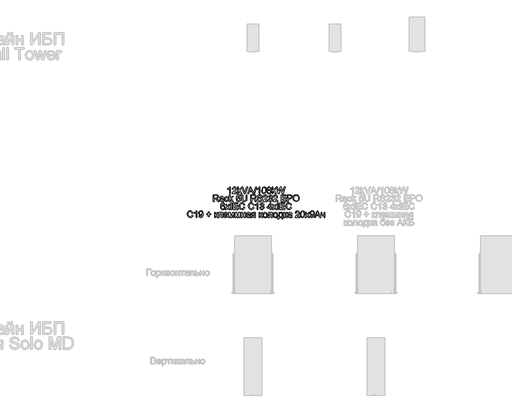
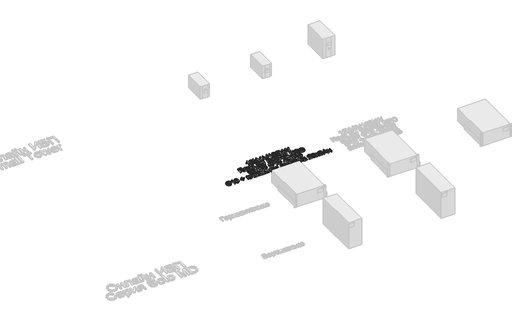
# One storey, part 53 of 74: 1 proxy.
"""IFC4 building model written with IfcOpenShell, lengths in millimetres."""

from ifc_helpers import new_model, si_unit, origin, origin_with_axes, place, context, project, spatial, polyline, outline, extrude, element, save

model = new_model("IFC4")

# Units and contexts
model_context = context("Model", 3, world=origin())
ifc_project = project(units=[si_unit("LENGTHUNIT", "METRE", prefix="MILLI")], contexts=[model_context])

# Site, building, storey
site = spatial("IfcSite", under=ifc_project)
building = spatial("IfcBuilding", under=site)
storey = spatial("IfcBuildingStorey", under=building, Name="Этаж 01", Elevation=0.0)

# Proxy
placement = place(None, origin())
element("IfcBuildingElementProxy", 1, Name="80 мм Arial", ObjectType="80 мм Arial", at=placement, inside=storey, context=model_context, shape_type="SweptSolid", body=[
    extrude(outline(polyline([(1076.7842514, -3326.633326), (1066.7386204, -3326.633326), (1066.7386204, -3264.0050951), (1057.2227394, -3270.783934), (1046.6473583, -3275.8558004), (1046.6473583, -3266.3595399), (1061.3724483, -3256.9613812), (1070.3095283, -3246.2682778), (1076.7842514, -3246.2682778), (1076.7842514, -3326.633326)])), origin_with_axes(), (0.0, 0.0, 1.0), 20.0),
    extrude(outline(polyline([(1152.126484, -3316.5876949), (1152.126484, -3326.633326), (1099.3869212, -3326.633326), (1100.4660417, -3319.7073343), (1106.5679777, -3309.0436615), (1119.1446369, -3297.3989701), (1136.4890467, -3280.6627918), (1140.8251491, -3269.2829755), (1136.7343013, -3260.0712103), (1126.0510082, -3256.3139089), (1114.9164465, -3259.9829186), (1110.6882561, -3270.1266515), (1100.6426251, -3268.8709476), (1103.0780039, -3259.1539579), (1108.3436215, -3252.0562879), (1116.1647927, -3247.7152804), (1126.2668323, -3246.2682778), (1136.4424483, -3247.8771484), (1144.2489042, -3252.7037602), (1149.2153111, -3259.9142473), (1150.8707801, -3268.6747439), (1149.0853262, -3278.200435), (1143.1501633, -3288.0498623), (1128.7586197, -3301.813554), (1117.2022199, -3311.4765878), (1112.6699137, -3316.5876949), (1152.126484, -3316.5876949)])), origin_with_axes(), (0.0, 0.0, 1.0), 20.0),
    extrude(outline(polyline([(1164.6835228, -3326.633326), (1164.6835228, -3246.2682778), (1174.7291538, -3246.2682778), (1174.7291538, -3289.452719), (1197.2533421, -3267.6152437), (1211.1445662, -3267.6152437), (1188.3456927, -3289.7274042), (1212.4002701, -3326.633326), (1200.667287, -3326.633326), (1181.1450158, -3296.712257), (1174.7291538, -3302.9319153), (1174.7291538, -3326.633326), (1164.6835228, -3326.633326)])), origin_with_axes(), (0.0, 0.0, 1.0), 20.0),
    extrude(outline(polyline([(1287.1735119, -3326.633326), (1319.2528219, -3246.2682778), (1327.8073045, -3246.2682778), (1359.8866145, -3326.633326), (1349.2719927, -3326.633326), (1340.0700377, -3301.5192484), (1306.9704683, -3301.5192484), (1297.7881337, -3326.633326), (1287.1735119, -3326.633326)]), holes=[polyline([(1310.6590985, -3291.4736174), (1336.4010279, -3291.4736174), (1329.1611103, -3271.7159017), (1323.5300632, -3256.3139089), (1318.5268681, -3269.9893089), (1310.6590985, -3291.4736174)])]), origin_with_axes(), (0.0, 0.0, 1.0), 20.0),
    extrude(outline(polyline([(1246.1865525, -3326.633326), (1214.2053444, -3246.2682778), (1224.9573089, -3246.2682778), (1246.3631359, -3304.1679988), (1250.6992383, -3317.2155469), (1254.9764797, -3304.1679988), (1276.4411678, -3246.2682778), (1287.1931323, -3246.2682778), (1256.5657299, -3326.633326), (1246.1865525, -3326.633326)])), origin_with_axes(), (0.0, 0.0, 1.0), 20.0),
    extrude(outline(polyline([(1361.8290314, -3326.633326), (1384.4317012, -3246.2682778), (1393.4963136, -3246.2682778), (1370.8936438, -3326.633326), (1361.8290314, -3326.633326)])), origin_with_axes(), (0.0, 0.0, 1.0), 20.0),
    extrude(outline(polyline([(1435.9155602, -3326.633326), (1425.8699292, -3326.633326), (1425.8699292, -3264.0050951), (1416.3540482, -3270.783934), (1405.7786671, -3275.8558004), (1405.7786671, -3266.3595399), (1420.5037571, -3256.9613812), (1429.4408371, -3246.2682778), (1435.9155602, -3246.2682778), (1435.9155602, -3326.633326)])), origin_with_axes(), (0.0, 0.0, 1.0), 20.0),
    extrude(outline(polyline([(1459.7739338, -3287.0982742), (1462.7268, -3263.9756645), (1471.4971067, -3250.643621), (1486.1437152, -3246.2682778), (1497.8766983, -3248.8581671), (1505.9799124, -3256.323719), (1510.688802, -3268.2136651), (1512.5134967, -3287.0982742), (1509.5900611, -3310.122782), (1500.8491849, -3323.4842561), (1486.1437152, -3327.8890298), (1475.7056768, -3325.9760435), (1467.7790461, -3320.2370843), (1461.7752119, -3306.6450709), (1459.7739338, -3287.0982742)]), holes=[polyline([(1469.8195649, -3287.0786538), (1470.9967872, -3302.8804118), (1474.5284544, -3312.0259582), (1486.1437152, -3317.8433988), (1497.7589761, -3312.0063378), (1501.2906433, -3302.8558863), (1502.4678656, -3287.0786538), (1501.329884, -3271.6325151), (1497.9159391, -3262.4158449), (1492.6674893, -3257.8393929), (1486.025993, -3256.3139089), (1474.6854174, -3261.6898911), (1471.036028, -3271.4804572), (1469.8195649, -3287.0786538)])]), origin_with_axes(), (0.0, 0.0, 1.0), 20.0),
    extrude(outline(polyline([(1535.9402221, -3282.3697643), (1526.7873181, -3276.1304857), (1523.8148316, -3266.418401), (1525.4335123, -3258.5653467), (1530.2895547, -3252.0759083), (1537.8384932, -3247.7201854), (1547.5358626, -3246.2682778), (1557.2920931, -3247.7545211), (1564.9391335, -3252.2132509), (1569.8834675, -3258.8056962), (1571.5315789, -3266.6930862), (1568.5983331, -3276.1599162), (1559.7004939, -3282.3697643), (1570.3837871, -3290.2473441), (1574.0429866, -3303.2458413), (1572.2281021, -3312.8500139), (1566.7834486, -3320.7864548), (1558.3761187, -3326.1133861), (1547.6732052, -3327.8890298), (1536.9702917, -3326.1060284), (1528.5629618, -3320.7570242), (1523.1183083, -3312.7445544), (1521.3034238, -3302.971156), (1525.1097762, -3289.6685431), (1535.9402221, -3282.3697643)]), holes=[polyline([(1533.8604626, -3266.7127066), (1537.4215603, -3274.6000966), (1547.7909275, -3277.6608748), (1557.9542807, -3274.6197169), (1561.4859479, -3267.1639752), (1557.8365585, -3259.4433584), (1547.6732052, -3256.3139089), (1537.4804214, -3259.3746871), (1533.8604626, -3266.7127066)]), polyline([(1531.3490548, -3302.6179893), (1533.0265967, -3310.1816431), (1538.9617596, -3315.8421208), (1547.7516867, -3317.8433988), (1559.7201143, -3313.6348288), (1563.9973556, -3302.9319153), (1559.5827717, -3292.0229879), (1547.4181404, -3287.7065058), (1535.5968656, -3291.9641267), (1531.3490548, -3302.6179893)])]), origin_with_axes(), (0.0, 0.0, 1.0), 20.0),
    extrude(outline(polyline([(1585.3443215, -3326.633326), (1585.3443215, -3246.2682778), (1595.3899525, -3246.2682778), (1595.3899525, -3289.452719), (1617.9141408, -3267.6152437), (1631.805365, -3267.6152437), (1609.0064915, -3289.7274042), (1633.0610688, -3326.633326), (1621.3280857, -3326.633326), (1601.8058145, -3296.712257), (1595.3899525, -3302.9319153), (1595.3899525, -3326.633326), (1585.3443215, -3326.633326)])), origin_with_axes(), (0.0, 0.0, 1.0), 20.0),
    extrude(outline(polyline([(1657.4884333, -3326.633326), (1635.5724766, -3246.2682778), (1645.9320336, -3246.2682778), (1658.6460353, -3299.0863222), (1662.5701099, -3315.3908522), (1666.7688698, -3300.969878), (1682.7006127, -3246.2682778), (1697.6317166, -3246.2682778), (1709.2077368, -3285.9210518), (1717.8210805, -3315.3908522), (1721.6274329, -3299.5572111), (1734.4591569, -3246.2682778), (1744.8187139, -3246.2682778), (1722.8831368, -3326.633326), (1712.1507927, -3326.633326), (1692.8835864, -3264.632947), (1690.1955952, -3255.9803625), (1687.1740578, -3266.3987806), (1669.6138239, -3326.633326), (1657.4884333, -3326.633326)])), origin_with_axes(), (0.0, 0.0, 1.0), 20.0),
    extrude(outline(polyline([(866.453852, -3424.2131802), (866.453852, -3343.8481321), (901.0838105, -3343.8481321), (917.1627062, -3346.0161833), (925.9526334, -3353.6877492), (929.2390459, -3365.8425703), (923.7943923, -3380.3224057), (906.9699224, -3387.7977678), (912.679451, -3392.0946295), (920.8219058, -3402.4345661), (934.2226206, -3424.2131802), (922.5484986, -3424.2131802), (912.0908398, -3407.5554835), (904.5369962, -3396.5288338), (899.2296852, -3391.3196248), (894.4521244, -3389.4066384), (888.6248736, -3389.0534717), (876.499483, -3389.0534717), (876.499483, -3424.2131802), (866.453852, -3424.2131802)]), holes=[polyline([(876.499483, -3379.0078407), (898.9844306, -3379.0078407), (910.4525386, -3377.5853636), (916.9665025, -3373.0334371), (919.1934148, -3366.2153574), (914.9456041, -3357.3665692), (901.5154587, -3353.8937631), (876.499483, -3353.8937631), (876.499483, -3379.0078407)])]), origin_with_axes(), (0.0, 0.0, 1.0), 20.0),
    extrude(outline(polyline([(983.2343126, -3416.678957), (973.4927973, -3423.4872264), (962.7310227, -3425.4688841), (948.1432753, -3420.7011335), (943.0517885, -3408.5168818), (944.9745851, -3400.5706307), (950.0268311, -3394.802241), (957.0607349, -3391.5060183), (965.7525602, -3389.9952496), (983.1754514, -3386.5420639), (983.2343126, -3384.3053414), (980.46784, -3376.8888404), (969.3627088, -3373.9850252), (959.1993555, -3375.9176319), (954.3531234, -3382.7749523), (944.3074924, -3381.5192484), (948.653405, -3371.7090619), (957.4040914, -3365.9602926), (970.6576534, -3363.9393941), (982.8320949, -3365.7248481), (989.7090357, -3370.2081033), (992.7894343, -3377.026183), (993.2799436, -3385.8161101), (993.2799436, -3398.3142878), (993.7900733, -3415.7666096), (995.7913513, -3424.2131802), (985.7457203, -3424.2131802), (983.2343126, -3416.678957)]), holes=[polyline([(983.2343126, -3396.5876949), (967.0278844, -3399.6680935), (958.3851101, -3401.2965845), (954.4708456, -3403.9453348), (953.0974195, -3407.8105483), (956.0895264, -3413.2453917), (964.8696434, -3415.4232531), (975.0329966, -3413.0197574), (981.5862012, -3407.2023168), (983.1754514, -3399.432649), (983.2343126, -3396.5876949)])]), origin_with_axes(), (0.0, 0.0, 1.0), 20.0),
    extrude(outline(polyline([(1044.7638025, -3402.8662143), (1054.8094335, -3404.1219182), (1052.0086253, -3413.0565456), (1046.7454602, -3419.8084065), (1030.8137173, -3425.4688841), (1020.1279716, -3423.4945841), (1011.7721452, -3417.571684), (1006.3789952, -3407.9601537), (1004.5812785, -3394.9199632), (1007.6518669, -3378.2328359), (1017.0107848, -3367.510302), (1030.6763747, -3363.9393941), (1045.9508351, -3368.8444874), (1053.5537297, -3382.7749523), (1043.5080987, -3384.0306562), (1038.84826, -3376.5062431), (1030.7548562, -3373.9850252), (1019.1101647, -3378.9489796), (1014.6269095, -3394.645278), (1019.0120629, -3410.4887293), (1030.4801709, -3415.4232531), (1039.9470009, -3412.3428545), (1044.7638025, -3402.8662143)])), origin_with_axes(), (0.0, 0.0, 1.0), 20.0),
    extrude(outline(polyline([(1063.5993607, -3424.2131802), (1063.5993607, -3343.8481321), (1073.6449917, -3343.8481321), (1073.6449917, -3387.0325733), (1096.16918, -3365.195098), (1110.0604041, -3365.195098), (1087.2615306, -3387.3072585), (1111.316108, -3424.2131802), (1099.5831249, -3424.2131802), (1080.0608537, -3394.2921113), (1073.6449917, -3400.5117696), (1073.6449917, -3424.2131802), (1063.5993607, -3424.2131802)])), origin_with_axes(), (0.0, 0.0, 1.0), 20.0),
    extrude(outline(polyline([(1148.9872243, -3402.8662143), (1159.0328553, -3401.6105105), (1164.0949116, -3411.9602573), (1174.5918112, -3415.4232531), (1187.1880907, -3410.6064515), (1191.6811561, -3397.8237784), (1187.4725861, -3385.8945916), (1174.7487742, -3381.5192484), (1165.9294165, -3383.2654616), (1160.2885592, -3387.7977678), (1150.2429282, -3386.5420639), (1159.0328553, -3345.103836), (1197.9596755, -3345.103836), (1197.9596755, -3355.149467), (1167.1556898, -3355.149467), (1162.8588281, -3377.2812478), (1177.5544875, -3371.4736174), (1186.9403835, -3373.2737866), (1194.7321241, -3378.6742943), (1199.9781214, -3386.9050408), (1201.7267871, -3397.1959265), (1200.1522522, -3407.2415575), (1195.4286474, -3415.8352809), (1186.3836554, -3423.0604833), (1174.5525704, -3425.4688841), (1164.6859753, -3423.9213272), (1156.8255634, -3419.2786564), (1151.4373184, -3412.080432), (1148.9872243, -3402.8662143)])), origin_with_axes(), (0.0, 0.0, 1.0), 20.0),
    extrude(outline(polyline([(1267.0233887, -3343.8481321), (1277.0690198, -3343.8481321), (1277.0690198, -3390.2110737), (1274.3417879, -3409.4292291), (1264.511981, -3421.0052492), (1245.8726266, -3425.4688841), (1227.5177675, -3421.5840502), (1217.3347939, -3410.3317663), (1214.2838259, -3390.2110737), (1214.2838259, -3343.8481321), (1224.3294569, -3343.8481321), (1224.3294569, -3389.857907), (1226.3111146, -3405.1716082), (1233.1193841, -3412.7548824), (1244.9308487, -3415.4232531), (1255.1481579, -3414.103783), (1261.9417121, -3410.1453727), (1265.7529696, -3402.4345661), (1267.0233887, -3389.857907), (1267.0233887, -3343.8481321)])), origin_with_axes(), (0.0, 0.0, 1.0), 20.0),
    extrude(outline(polyline([(1326.0414709, -3424.2131802), (1326.0414709, -3343.8481321), (1360.6714294, -3343.8481321), (1376.7503252, -3346.0161833), (1385.5402523, -3353.6877492), (1388.8266648, -3365.8425703), (1383.3820113, -3380.3224057), (1366.5575414, -3387.7977678), (1372.2670699, -3392.0946295), (1380.4095247, -3402.4345661), (1393.8102396, -3424.2131802), (1382.1361176, -3424.2131802), (1371.6784587, -3407.5554835), (1364.1246151, -3396.5288338), (1358.8173042, -3391.3196248), (1354.0397433, -3389.4066384), (1348.2124925, -3389.0534717), (1336.087102, -3389.0534717), (1336.087102, -3424.2131802), (1326.0414709, -3424.2131802)]), holes=[polyline([(1336.087102, -3379.0078407), (1358.5720495, -3379.0078407), (1370.0401576, -3377.5853636), (1376.5541214, -3373.0334371), (1378.7810338, -3366.2153574), (1374.533223, -3357.3665692), (1361.1030776, -3353.8937631), (1336.087102, -3353.8937631), (1336.087102, -3379.0078407)])]), origin_with_axes(), (0.0, 0.0, 1.0), 20.0),
    extrude(outline(polyline([(1402.6394074, -3396.5876949), (1412.6850385, -3396.5876949), (1415.9224, -3406.6431361), (1423.8294104, -3413.000137), (1435.8763194, -3415.4232531), (1446.373219, -3413.5887482), (1453.1520579, -3408.5463123), (1455.3789703, -3401.8067142), (1453.7112386, -3395.538005), (1446.8833487, -3390.9762682), (1432.2563606, -3387.1404853), (1416.5110112, -3382.1863411), (1407.9663387, -3374.710979), (1405.1508152, -3364.7242091), (1408.6334314, -3353.3542029), (1418.8065949, -3345.3294703), (1433.698458, -3342.5924282), (1449.5909602, -3345.4570027), (1460.1859617, -3353.8741428), (1464.1688974, -3366.4508019), (1454.1232664, -3366.4508019), (1448.4333582, -3356.1304857), (1434.0908655, -3352.6380593), (1419.709132, -3356.0912449), (1415.1964462, -3364.4299035), (1418.394567, -3371.3951359), (1434.7971989, -3377.0065626), (1452.5732569, -3382.0489985), (1462.2951518, -3390.1914533), (1465.4246013, -3401.5516493), (1461.8242628, -3413.5691278), (1451.4647058, -3422.3394346), (1436.2687269, -3425.4688841), (1418.3258957, -3422.0941799), (1406.9755099, -3411.9308267), (1402.6394074, -3396.5876949)])), origin_with_axes(), (0.0, 0.0, 1.0), 20.0),
    extrude(outline(polyline([(1528.2097951, -3414.1675492), (1528.2097951, -3424.2131802), (1475.4702323, -3424.2131802), (1476.5493528, -3417.2871885), (1482.6512888, -3406.6235158), (1495.227948, -3394.9788244), (1512.5723578, -3378.2426461), (1516.9084602, -3366.8628297), (1512.8176124, -3357.6510646), (1502.1343193, -3353.8937631), (1490.9997576, -3357.5627729), (1486.7715672, -3367.7065058), (1476.7259362, -3366.4508019), (1479.161315, -3356.7338121), (1484.4269326, -3349.6361422), (1492.2481038, -3345.2951346), (1502.3501434, -3343.8481321), (1512.5257594, -3345.4570027), (1520.3322153, -3350.2836145), (1525.2986223, -3357.4941016), (1526.9540912, -3366.2545982), (1525.1686373, -3375.7802893), (1519.2334744, -3385.6297166), (1504.8419308, -3399.3934083), (1493.285531, -3409.056442), (1488.7532249, -3414.1675492), (1528.2097951, -3414.1675492)])), origin_with_axes(), (0.0, 0.0, 1.0), 20.0),
    extrude(outline(polyline([(1538.2554261, -3402.8662143), (1548.3010572, -3401.6105105), (1553.8438125, -3412.1858915), (1564.2131797, -3415.4232531), (1576.4170518, -3410.9694284), (1580.949358, -3399.9427787), (1576.4562925, -3389.5537912), (1565.0372354, -3385.443323), (1557.9935215, -3386.5420639), (1559.1118827, -3376.4964329), (1560.7207533, -3376.6141552), (1572.1201901, -3373.7299603), (1577.1822463, -3364.8615517), (1573.5132366, -3357.0035923), (1564.0562167, -3353.8937631), (1554.4814747, -3357.0330228), (1549.556761, -3366.4508019), (1539.51113, -3365.195098), (1547.7320663, -3349.4399384), (1563.70305, -3343.8481321), (1575.8186304, -3346.6047945), (1584.2946316, -3354.1390178), (1587.2278773, -3364.2729405), (1584.4417844, -3373.5337566), (1576.2012277, -3380.1850631), (1587.1493958, -3387.0521936), (1590.994989, -3400.1193621), (1589.0721924, -3409.9099283), (1583.3038027, -3418.0916238), (1574.5972622, -3423.624569), (1563.860013, -3425.4688841), (1554.1479283, -3423.8943492), (1546.240918, -3419.1707444), (1540.7423084, -3411.945542), (1538.2554261, -3402.8662143)])), origin_with_axes(), (0.0, 0.0, 1.0), 20.0),
    extrude(outline(polyline([(1651.2687751, -3414.1675492), (1651.2687751, -3424.2131802), (1598.5292122, -3424.2131802), (1599.6083327, -3417.2871885), (1605.7102688, -3406.6235158), (1618.2869279, -3394.9788244), (1635.6313377, -3378.2426461), (1639.9674402, -3366.8628297), (1635.8765924, -3357.6510646), (1625.1932992, -3353.8937631), (1614.0587375, -3357.5627729), (1609.8305471, -3367.7065058), (1599.7849161, -3366.4508019), (1602.2202949, -3356.7338121), (1607.4859125, -3349.6361422), (1615.3070838, -3345.2951346), (1625.4091233, -3343.8481321), (1635.5847393, -3345.4570027), (1643.3911953, -3350.2836145), (1648.3576022, -3357.4941016), (1650.0130712, -3366.2545982), (1648.2276172, -3375.7802893), (1642.2924544, -3385.6297166), (1627.9009107, -3399.3934083), (1616.344511, -3409.056442), (1611.8122048, -3414.1675492), (1651.2687751, -3414.1675492)])), origin_with_axes(), (0.0, 0.0, 1.0), 20.0),
    extrude(outline(polyline([(1696.4741146, -3424.2131802), (1696.4741146, -3343.8481321), (1754.236493, -3343.8481321), (1754.236493, -3353.8937631), (1706.5197456, -3353.8937631), (1706.5197456, -3377.7521368), (1751.7250852, -3377.7521368), (1751.7250852, -3387.7977678), (1706.5197456, -3387.7977678), (1706.5197456, -3414.1675492), (1755.4921968, -3414.1675492), (1755.4921968, -3424.2131802), (1696.4741146, -3424.2131802)])), origin_with_axes(), (0.0, 0.0, 1.0), 20.0),
    extrude(outline(polyline([(1770.5606434, -3424.2131802), (1770.5606434, -3343.8481321), (1800.3443697, -3343.8481321), (1812.352038, -3344.6133267), (1822.1131736, -3348.3706281), (1828.4407439, -3356.1402958), (1830.8344295, -3367.0982742), (1829.2182012, -3376.5700093), (1824.3695165, -3384.4623044), (1815.3024516, -3389.7892357), (1801.0310827, -3391.5648794), (1780.6062744, -3391.5648794), (1780.6062744, -3424.2131802), (1770.5606434, -3424.2131802)]), holes=[polyline([(1780.6062744, -3381.5192484), (1801.6196939, -3381.5192484), (1816.4134552, -3377.8306183), (1820.7887984, -3367.4514409), (1818.2087194, -3359.1324027), (1811.4298805, -3354.5804762), (1801.3842495, -3353.8937631), (1780.6062744, -3353.8937631), (1780.6062744, -3381.5192484)])]), origin_with_axes(), (0.0, 0.0, 1.0), 20.0),
    extrude(outline(polyline([(1840.8800605, -3385.0901563), (1843.5582414, -3367.3190034), (1851.5927842, -3353.8741428), (1863.8604224, -3345.4128569), (1879.2378898, -3342.5924282), (1899.23105, -3347.889929), (1912.8083482, -3362.6640699), (1917.477997, -3384.1679988), (1912.5630935, -3405.9662333), (1898.6326286, -3420.5245501), (1879.1790287, -3425.4688841), (1858.9700444, -3420.0046102), (1845.4712278, -3405.0931267), (1840.8800605, -3385.0901563)]), holes=[polyline([(1850.9256915, -3385.1882582), (1852.9343272, -3397.7600122), (1858.9602343, -3407.3396594), (1868.017489, -3413.4023547), (1879.1201676, -3415.4232531), (1890.3847143, -3413.3827343), (1899.4566843, -3407.2611779), (1905.4384455, -3397.3872251), (1907.4323659, -3384.0895173), (1904.018421, -3367.510302), (1894.0414613, -3356.5327033), (1879.2967509, -3352.6380593), (1868.4908305, -3354.5142574), (1859.3035908, -3360.142852), (1853.0201663, -3370.1565999), (1850.9256915, -3385.1882582)])]), origin_with_axes(), (0.0, 0.0, 1.0), 20.0),
    extrude(outline(polyline([(1009.604094, -3462.7749523), (999.558463, -3464.0306562), (995.7521106, -3455.6527569), (985.6868592, -3451.4736174), (976.6222468, -3453.9065437), (969.7649264, -3463.0398273), (966.9101622, -3480.9434178), (975.7687606, -3472.9284954), (986.7463593, -3470.3091756), (996.0267958, -3472.0995346), (1003.8160839, -3477.4706117), (1009.0988694, -3485.6768328), (1010.8597979, -3495.9726235), (1007.5439548, -3509.8344171), (998.4204813, -3519.6446037), (985.255211, -3523.0487384), (973.8582268, -3520.7923955), (964.7813517, -3514.0233668), (958.8437363, -3502.0745596), (956.8645311, -3484.2788812), (959.0620129, -3464.2710057), (965.6544583, -3450.5907006), (974.6553044, -3443.7186649), (986.3147111, -3441.4279864), (995.1291637, -3442.8455583), (1002.187593, -3447.0982742), (1009.604094, -3462.7749523)]), holes=[polyline([(966.9101622, -3495.8156606), (969.2351764, -3504.517296), (975.4155939, -3510.8350561), (984.4703961, -3513.0031074), (996.3112912, -3508.5100419), (1000.8141668, -3496.3061699), (996.3701523, -3484.6222377), (984.0583682, -3480.3548066), (971.9035471, -3484.6222377), (966.9101622, -3495.8156606)])]), origin_with_axes(), (0.0, 0.0, 1.0), 20.0),
    extrude(outline(polyline([(1015.8826134, -3521.7930345), (1037.3473015, -3492.1270304), (1017.1383172, -3462.7749523), (1029.2244671, -3462.7749523), (1038.9757925, -3476.9016209), (1043.527719, -3483.5725478), (1047.471414, -3478.118084), (1058.5765452, -3462.7749523), (1070.662695, -3462.7749523), (1049.4334513, -3492.1270304), (1069.8778801, -3521.7930345), (1057.7917303, -3521.7930345), (1045.4897563, -3503.9581154), (1043.2334134, -3500.7011335), (1027.9687632, -3521.7930345), (1015.8826134, -3521.7930345)])), origin_with_axes(), (0.0, 0.0, 1.0), 20.0),
    extrude(outline(polyline([(1081.179215, -3521.7930345), (1081.179215, -3441.4279864), (1091.224846, -3441.4279864), (1091.224846, -3521.7930345), (1081.179215, -3521.7930345)])), origin_with_axes(), (0.0, 0.0, 1.0), 20.0),
    extrude(outline(polyline([(1111.316108, -3521.7930345), (1111.316108, -3441.4279864), (1169.0784863, -3441.4279864), (1169.0784863, -3451.4736174), (1121.361739, -3451.4736174), (1121.361739, -3475.3319911), (1166.5670786, -3475.3319911), (1166.5670786, -3485.3776221), (1121.361739, -3485.3776221), (1121.361739, -3511.7474035), (1170.3341902, -3511.7474035), (1170.3341902, -3521.7930345), (1111.316108, -3521.7930345)])), origin_with_axes(), (0.0, 0.0, 1.0), 20.0),
    extrude(outline(polyline([(1241.9093112, -3493.2257713), (1251.9549422, -3495.8156606), (1247.3196291, -3507.5216656), (1240.0453758, -3516.0736958), (1230.4902541, -3521.3049777), (1219.0123358, -3523.0487384), (1198.1068283, -3517.770858), (1185.8440951, -3502.4865874), (1181.6355251, -3481.0022789), (1186.3934656, -3459.1648037), (1199.9217128, -3445.0087045), (1219.2281599, -3440.1722825), (1230.2425469, -3441.7370073), (1239.3488525, -3446.4311815), (1246.2625815, -3453.9654048), (1250.6992383, -3464.0502765), (1240.6536073, -3466.4439621), (1232.4130506, -3454.0929372), (1218.8357525, -3450.2179135), (1203.1198336, -3454.5147752), (1194.2416148, -3466.0515546), (1191.6811561, -3480.9826585), (1194.7125038, -3498.2878276), (1204.1499032, -3509.3439078), (1218.0116968, -3513.0031074), (1233.3842591, -3508.0195326), (1241.9093112, -3493.2257713)])), origin_with_axes(), (0.0, 0.0, 1.0), 20.0),
    extrude(outline(polyline([(1353.6669562, -3493.2257713), (1363.7125873, -3495.8156606), (1359.0772741, -3507.5216656), (1351.8030208, -3516.0736958), (1342.2478991, -3521.3049777), (1330.7699809, -3523.0487384), (1309.8644733, -3517.770858), (1297.6017402, -3502.4865874), (1293.3931702, -3481.0022789), (1298.1511106, -3459.1648037), (1311.6793579, -3445.0087045), (1330.985805, -3440.1722825), (1342.0001919, -3441.7370073), (1351.1064976, -3446.4311815), (1358.0202265, -3453.9654048), (1362.4568834, -3464.0502765), (1352.4112524, -3466.4439621), (1344.1706957, -3454.0929372), (1330.5933975, -3450.2179135), (1314.8774787, -3454.5147752), (1305.9992599, -3466.0515546), (1303.4388012, -3480.9826585), (1306.4701488, -3498.2878276), (1315.9075483, -3509.3439078), (1329.7693418, -3513.0031074), (1345.1419041, -3508.0195326), (1353.6669562, -3493.2257713)])), origin_with_axes(), (0.0, 0.0, 1.0), 20.0),
    extrude(outline(polyline([(1411.4293346, -3521.7930345), (1401.3837036, -3521.7930345), (1401.3837036, -3459.1648037), (1391.8678226, -3465.9436426), (1381.2924415, -3471.015509), (1381.2924415, -3461.5192484), (1396.0175315, -3452.1210897), (1404.9546115, -3441.4279864), (1411.4293346, -3441.4279864), (1411.4293346, -3521.7930345)])), origin_with_axes(), (0.0, 0.0, 1.0), 20.0),
    extrude(outline(polyline([(1435.2877082, -3500.4460686), (1445.3333393, -3499.1903647), (1450.8760946, -3509.7657458), (1461.2454618, -3513.0031074), (1473.4493339, -3508.5492827), (1477.98164, -3497.522633), (1473.4885746, -3487.1336455), (1462.0695175, -3483.0231773), (1455.0258036, -3484.1219182), (1456.1441648, -3474.0762872), (1457.7530354, -3474.1940094), (1469.1524722, -3471.3098146), (1474.2145284, -3462.441406), (1470.5455187, -3454.5834465), (1461.0884988, -3451.4736174), (1451.5137568, -3454.6128771), (1446.5890431, -3464.0306562), (1436.5434121, -3462.7749523), (1444.7643484, -3447.0197927), (1460.7353321, -3441.4279864), (1472.8509125, -3444.1846488), (1481.3269137, -3451.7188721), (1484.2601594, -3461.8527948), (1481.4740665, -3471.1136109), (1473.2335098, -3477.7649173), (1484.1816779, -3484.6320479), (1488.0272711, -3497.6992164), (1486.1044745, -3507.4897825), (1480.3360848, -3515.6714781), (1471.6295443, -3521.2044233), (1460.8922951, -3523.0487384), (1451.1802104, -3521.4742035), (1443.2732001, -3516.7505986), (1437.7745905, -3509.5253962), (1435.2877082, -3500.4460686)])), origin_with_axes(), (0.0, 0.0, 1.0), 20.0),
    extrude(outline(polyline([(1560.8580959, -3521.7930345), (1560.8580959, -3502.9574764), (1524.4426835, -3502.9574764), (1524.4426835, -3492.9118453), (1563.3695037, -3442.6836903), (1570.9037269, -3442.6836903), (1570.9037269, -3492.9118453), (1580.949358, -3492.9118453), (1580.949358, -3502.9574764), (1570.9037269, -3502.9574764), (1570.9037269, -3521.7930345), (1560.8580959, -3521.7930345)]), holes=[polyline([(1560.8580959, -3492.9118453), (1560.8580959, -3461.8724151), (1536.8035185, -3492.9118453), (1560.8580959, -3492.9118453)])]), origin_with_axes(), (0.0, 0.0, 1.0), 20.0),
    extrude(outline(polyline([(1585.9721735, -3521.7930345), (1607.4368616, -3492.1270304), (1587.2278773, -3462.7749523), (1599.3140272, -3462.7749523), (1609.0653526, -3476.9016209), (1613.6172791, -3483.5725478), (1617.5609741, -3478.118084), (1628.6661053, -3462.7749523), (1640.7522551, -3462.7749523), (1619.5230114, -3492.1270304), (1639.9674402, -3521.7930345), (1627.8812904, -3521.7930345), (1615.5793164, -3503.9581154), (1613.3229735, -3500.7011335), (1598.0583233, -3521.7930345), (1585.9721735, -3521.7930345)])), origin_with_axes(), (0.0, 0.0, 1.0), 20.0),
    extrude(outline(polyline([(1651.2687751, -3521.7930345), (1651.2687751, -3441.4279864), (1661.3144061, -3441.4279864), (1661.3144061, -3521.7930345), (1651.2687751, -3521.7930345)])), origin_with_axes(), (0.0, 0.0, 1.0), 20.0),
    extrude(outline(polyline([(1681.4056681, -3521.7930345), (1681.4056681, -3441.4279864), (1739.1680464, -3441.4279864), (1739.1680464, -3451.4736174), (1691.4512991, -3451.4736174), (1691.4512991, -3475.3319911), (1736.6566387, -3475.3319911), (1736.6566387, -3485.3776221), (1691.4512991, -3485.3776221), (1691.4512991, -3511.7474035), (1740.4237503, -3511.7474035), (1740.4237503, -3521.7930345), (1681.4056681, -3521.7930345)])), origin_with_axes(), (0.0, 0.0, 1.0), 20.0),
    extrude(outline(polyline([(1811.9988713, -3493.2257713), (1822.0445023, -3495.8156606), (1817.4091892, -3507.5216656), (1810.1349359, -3516.0736958), (1800.5798142, -3521.3049777), (1789.1018959, -3523.0487384), (1768.1963884, -3517.770858), (1755.9336552, -3502.4865874), (1751.7250852, -3481.0022789), (1756.4830257, -3459.1648037), (1770.0112729, -3445.0087045), (1789.31772, -3440.1722825), (1800.332107, -3441.7370073), (1809.4384126, -3446.4311815), (1816.3521416, -3453.9654048), (1820.7887984, -3464.0502765), (1810.7431674, -3466.4439621), (1802.5026107, -3454.0929372), (1788.9253126, -3450.2179135), (1773.2093937, -3454.5147752), (1764.3311749, -3466.0515546), (1761.7707162, -3480.9826585), (1764.8020639, -3498.2878276), (1774.2394633, -3509.3439078), (1788.1012569, -3513.0031074), (1803.4738192, -3508.0195326), (1811.9988713, -3493.2257713)])), origin_with_axes(), (0.0, 0.0, 1.0), 20.0),
    extrude(outline(polyline([(609.0345573, -3590.8056256), (619.0801883, -3593.3955148), (614.4448751, -3605.1015199), (607.1706218, -3613.65355), (597.6155001, -3618.884832), (586.1375819, -3620.6285927), (565.2320744, -3615.3507123), (552.9693412, -3600.0664417), (548.7607712, -3578.5821332), (553.5187116, -3556.7446579), (567.0469589, -3542.5885588), (586.353406, -3537.7521368), (597.3677929, -3539.3168615), (606.4740986, -3544.0110358), (613.3878275, -3551.5452591), (617.8244844, -3561.6301308), (607.7788534, -3564.0238163), (599.5382967, -3551.6727915), (585.9609985, -3547.7977678), (570.2450797, -3552.0946295), (561.3668609, -3563.6314089), (558.8064022, -3578.5625128), (561.8377498, -3595.8676818), (571.2751493, -3606.9237621), (585.1369428, -3610.5829617), (600.5095052, -3605.5993869), (609.0345573, -3590.8056256)])), origin_with_axes(), (0.0, 0.0, 1.0), 20.0),
    extrude(outline(polyline([(666.7969356, -3619.3728888), (656.7513046, -3619.3728888), (656.7513046, -3556.7446579), (647.2354236, -3563.5234968), (636.6600425, -3568.5953633), (636.6600425, -3559.0991027), (651.3851325, -3549.700944), (660.3222125, -3539.0078407), (666.7969356, -3539.0078407), (666.7969356, -3619.3728888)])), origin_with_axes(), (0.0, 0.0, 1.0), 20.0),
    extrude(outline(polyline([(691.9110131, -3599.2816268), (701.9566441, -3598.0259229), (706.46933, -3607.6104751), (715.0238126, -3610.5829617), (723.1564573, -3608.6699753), (728.6697821, -3603.5588681), (731.9561946, -3594.8278021), (733.4081022, -3583.1733005), (733.3492411, -3581.2112632), (725.3146983, -3588.8239679), (714.2978588, -3591.7474035), (705.1375971, -3589.9619495), (697.5126296, -3584.6055877), (692.3696393, -3576.3306954), (690.6553093, -3565.7896499), (692.4530259, -3554.9003429), (697.846176, -3546.3654806), (705.9469375, -3540.8472506), (715.8674887, -3539.0078407), (730.1805508, -3543.2066005), (740.0299781, -3555.1750281), (743.3948721, -3577.6599756), (740.0397883, -3602.0579095), (730.0628286, -3615.8804624), (714.5529237, -3620.6285927), (705.9641053, -3619.2281885), (699.11169, -3615.0269762), (691.9110131, -3599.2816268)]), holes=[polyline([(733.3492411, -3565.5542054), (729.0131386, -3553.5072964), (717.4959796, -3549.0534717), (705.4098298, -3553.8506529), (700.7009403, -3566.2801592), (705.154765, -3577.414721), (717.2212944, -3581.7017725), (728.8071247, -3577.414721), (733.3492411, -3565.5542054)])]), origin_with_axes(), (0.0, 0.0, 1.0), 20.0),
    extrude(outline(polyline([(806.1800659, -3606.81585), (806.1800659, -3585.4688841), (784.8331, -3585.4688841), (784.8331, -3575.4232531), (806.1800659, -3575.4232531), (806.1800659, -3554.0762872), (816.2256969, -3554.0762872), (816.2256969, -3575.4232531), (837.5726628, -3575.4232531), (837.5726628, -3585.4688841), (816.2256969, -3585.4688841), (816.2256969, -3606.81585), (806.1800659, -3606.81585)])), origin_with_axes(), (0.0, 0.0, 1.0), 20.0),
    extrude(outline(polyline([(936.7732691, -3560.3548066), (981.9786087, -3560.3548066), (981.9786087, -3619.3140277), (971.9329777, -3619.3140277), (971.9329777, -3570.4004376), (946.8189001, -3570.4004376), (946.8189001, -3598.555673), (946.1419973, -3611.5443599), (942.4239366, -3617.0282542), (933.6340094, -3619.3728888), (925.4719342, -3618.8627591), (925.4719342, -3609.3272578), (929.9649997, -3609.3272578), (934.507116, -3608.709216), (936.3220005, -3606.7471787), (936.7732691, -3597.9866821), (936.7732691, -3560.3548066)])), origin_with_axes(), (0.0, 0.0, 1.0), 20.0),
    extrude(outline(polyline([(882.7780024, -3560.3548066), (892.8236334, -3560.3548066), (892.8236334, -3585.4688841), (899.5534214, -3583.6638098), (905.0667462, -3573.1472898), (909.6481033, -3564.0728673), (913.6899002, -3561.1200011), (921.0377299, -3560.3548066), (922.9605265, -3560.3548066), (922.9605265, -3570.4592987), (920.252915, -3570.4004376), (915.3478217, -3571.4599377), (911.8946361, -3578.0720035), (907.843029, -3585.2236295), (902.162931, -3588.725866), (908.5003115, -3592.6352254), (914.7199698, -3600.870877), (925.4719342, -3619.3728888), (914.0528771, -3619.3728888), (903.5167368, -3601.2632844), (898.219236, -3593.6015288), (892.8236334, -3591.7474035), (892.8236334, -3619.3728888), (882.7780024, -3619.3728888), (882.7780024, -3560.3548066)])), origin_with_axes(), (0.0, 0.0, 1.0), 20.0),
    extrude(outline(polyline([(1038.3675609, -3601.7930345), (1048.2169882, -3603.0487384), (1039.005223, -3616.017805), (1021.8472068, -3620.6285927), (1010.0602677, -3618.6395773), (1000.9907502, -3612.6725314), (995.2076452, -3603.1149571), (993.2799436, -3590.354357), (995.2272656, -3577.1645612), (1001.0692317, -3567.3004186), (1010.0161218, -3561.1494317), (1021.278216, -3559.0991027), (1032.1895959, -3561.1445266), (1040.9083992, -3567.2807983), (1046.6252854, -3577.1253205), (1048.5309142, -3590.2954959), (1048.472053, -3593.0031074), (1003.3255746, -3593.0031074), (1009.1037745, -3606.0506555), (1022.0434105, -3610.5829617), (1031.8928378, -3608.4835817), (1038.3675609, -3601.7930345)]), holes=[polyline([(1003.3255746, -3582.9574764), (1038.4852831, -3582.9574764), (1034.4631067, -3573.8536233), (1021.2389752, -3569.1447337), (1008.86833, -3572.9020352), (1003.3255746, -3582.9574764)])]), origin_with_axes(), (0.0, 0.0, 1.0), 20.0),
    extrude(outline(polyline([(1058.5765452, -3560.3548066), (1075.8620939, -3560.3548066), (1089.1843272, -3607.6006649), (1103.5464403, -3560.3548066), (1120.1060351, -3560.3548066), (1120.1060351, -3619.3728888), (1110.0604041, -3619.3728888), (1110.0604041, -3571.8523452), (1095.6198095, -3619.3728888), (1082.4349188, -3619.3728888), (1068.6221762, -3569.5763819), (1068.6221762, -3619.3728888), (1058.5765452, -3619.3728888), (1058.5765452, -3560.3548066)])), origin_with_axes(), (0.0, 0.0, 1.0), 20.0),
    extrude(outline(polyline([(1135.1744817, -3560.3548066), (1152.4600303, -3560.3548066), (1165.7822637, -3607.6006649), (1180.1443768, -3560.3548066), (1196.7039716, -3560.3548066), (1196.7039716, -3619.3728888), (1186.6583406, -3619.3728888), (1186.6583406, -3571.8523452), (1172.217746, -3619.3728888), (1159.0328553, -3619.3728888), (1145.2201127, -3569.5763819), (1145.2201127, -3619.3728888), (1135.1744817, -3619.3728888), (1135.1744817, -3560.3548066)])), origin_with_axes(), (0.0, 0.0, 1.0), 20.0),
    extrude(outline(polyline([(1211.7724182, -3560.3548066), (1221.8180492, -3560.3548066), (1221.8180492, -3582.9574764), (1248.1878306, -3582.9574764), (1248.1878306, -3560.3548066), (1258.2334616, -3560.3548066), (1258.2334616, -3619.3728888), (1248.1878306, -3619.3728888), (1248.1878306, -3593.0031074), (1221.8180492, -3593.0031074), (1221.8180492, -3619.3728888), (1211.7724182, -3619.3728888), (1211.7724182, -3560.3548066)])), origin_with_axes(), (0.0, 0.0, 1.0), 20.0),
    extrude(outline(polyline([(1310.9730244, -3611.8386655), (1301.2315092, -3618.646935), (1290.4697346, -3620.6285927), (1275.8819872, -3615.860842), (1270.7905004, -3603.6765903), (1272.7132969, -3595.7303392), (1277.765543, -3589.9619495), (1284.7994467, -3586.6657269), (1293.491272, -3585.1549581), (1310.9141633, -3581.7017725), (1310.9730244, -3579.46505), (1308.2065518, -3572.0485489), (1297.1014207, -3569.1447337), (1286.9380674, -3571.0773405), (1282.0918353, -3577.9346609), (1272.0462042, -3576.678957), (1276.3921169, -3566.8687704), (1285.1428033, -3561.1200011), (1298.3963653, -3559.0991027), (1310.5708068, -3560.8845566), (1317.4477475, -3565.3678119), (1320.5281461, -3572.1858915), (1321.0186554, -3580.9758187), (1321.0186554, -3593.4739963), (1321.5287851, -3610.9263182), (1323.5300632, -3619.3728888), (1313.4844322, -3619.3728888), (1310.9730244, -3611.8386655)]), holes=[polyline([(1310.9730244, -3591.7474035), (1294.7665963, -3594.8278021), (1286.1238219, -3596.456293), (1282.2095575, -3599.1050434), (1280.8361314, -3602.9702569), (1283.8282383, -3608.4051002), (1292.6083552, -3610.5829617), (1302.7717085, -3608.1794659), (1309.3249131, -3602.3620253), (1310.9141633, -3594.5923576), (1310.9730244, -3591.7474035)])]), origin_with_axes(), (0.0, 0.0, 1.0), 20.0),
    extrude(outline(polyline([(1380.0367377, -3560.3548066), (1380.0367377, -3619.3728888), (1369.9911066, -3619.3728888), (1369.9911066, -3596.770219), (1364.5170226, -3596.770219), (1357.0612808, -3598.0455433), (1350.0568076, -3606.6196463), (1342.0516954, -3619.3728888), (1330.4364345, -3619.3728888), (1340.5213063, -3603.2449421), (1349.0757889, -3594.8866632), (1337.3820466, -3588.7847272), (1333.5756942, -3577.4049108), (1338.7750931, -3565.0833165), (1353.8239192, -3560.3548066), (1380.0367377, -3560.3548066)]), holes=[polyline([(1369.9911066, -3570.4004376), (1356.7473548, -3570.4004376), (1346.0248209, -3572.7254518), (1343.6213252, -3578.1701053), (1347.1628026, -3584.6546386), (1359.7100311, -3586.724588), (1369.9911066, -3586.724588), (1369.9911066, -3570.4004376)])]), origin_with_axes(), (0.0, 0.0, 1.0), 20.0),
    extrude(outline(polyline([(1426.4977811, -3560.3548066), (1436.5434121, -3560.3548066), (1436.5434121, -3585.4688841), (1443.2732001, -3583.6638098), (1448.7865249, -3573.1472898), (1453.367882, -3564.0728673), (1457.4096789, -3561.1200011), (1464.7575086, -3560.3548066), (1466.6803052, -3560.3548066), (1466.6803052, -3570.4592987), (1463.9726937, -3570.4004376), (1459.0676004, -3571.4599377), (1455.6144147, -3578.0720035), (1451.5628077, -3585.2236295), (1445.8827097, -3588.725866), (1452.2200902, -3592.6352254), (1458.4397485, -3600.870877), (1469.1917129, -3619.3728888), (1457.7726558, -3619.3728888), (1447.2365154, -3601.2632844), (1441.9390147, -3593.6015288), (1436.5434121, -3591.7474035), (1436.5434121, -3619.3728888), (1426.4977811, -3619.3728888), (1426.4977811, -3560.3548066)])), origin_with_axes(), (0.0, 0.0, 1.0), 20.0),
    extrude(outline(polyline([(1472.9588245, -3589.8638477), (1475.1317809, -3575.6341721), (1481.6506498, -3565.6326869), (1489.704813, -3560.7324988), (1499.3482263, -3559.0991027), (1509.9015345, -3561.088118), (1518.3309373, -3567.055164), (1523.8565248, -3576.5293516), (1525.6983874, -3589.039792), (1522.4414054, -3606.9139519), (1512.9549551, -3617.0282542), (1499.3482263, -3620.6285927), (1488.6673857, -3618.646935), (1480.2477931, -3612.7019619), (1474.7810667, -3603.029118), (1472.9588245, -3589.8638477)]), holes=[polyline([(1483.0044556, -3589.8442273), (1487.654484, -3605.4129933), (1499.3482263, -3610.5829617), (1511.0027279, -3605.3835628), (1515.6527564, -3589.5303013), (1510.9732974, -3574.314702), (1499.3482263, -3569.1447337), (1487.654484, -3574.2950816), (1483.0044556, -3589.8442273)])]), origin_with_axes(), (0.0, 0.0, 1.0), 20.0),
    extrude(outline(polyline([(1542.0225378, -3560.3548066), (1587.2278773, -3560.3548066), (1587.2278773, -3619.3140277), (1577.1822463, -3619.3140277), (1577.1822463, -3570.4004376), (1552.0681688, -3570.4004376), (1552.0681688, -3598.555673), (1551.3912659, -3611.5443599), (1547.6732052, -3617.0282542), (1538.8832781, -3619.3728888), (1530.7212029, -3618.8627591), (1530.7212029, -3609.3272578), (1535.2142683, -3609.3272578), (1539.7563847, -3608.709216), (1541.5712692, -3606.7471787), (1542.0225378, -3597.9866821), (1542.0225378, -3560.3548066)])), origin_with_axes(), (0.0, 0.0, 1.0), 20.0),
    extrude(outline(polyline([(1599.7849161, -3589.8638477), (1601.9578724, -3575.6341721), (1608.4767414, -3565.6326869), (1616.5309045, -3560.7324988), (1626.1743179, -3559.0991027), (1636.7276261, -3561.088118), (1645.1570288, -3567.055164), (1650.6826164, -3576.5293516), (1652.5244789, -3589.039792), (1649.267497, -3606.9139519), (1639.7810466, -3617.0282542), (1626.1743179, -3620.6285927), (1615.4934773, -3618.646935), (1607.0738847, -3612.7019619), (1601.6071583, -3603.029118), (1599.7849161, -3589.8638477)]), holes=[polyline([(1609.8305471, -3589.8442273), (1614.4805755, -3605.4129933), (1626.1743179, -3610.5829617), (1637.8288195, -3605.3835628), (1642.4788479, -3589.5303013), (1637.7993889, -3574.314702), (1626.1743179, -3569.1447337), (1614.4805755, -3574.2950816), (1609.8305471, -3589.8442273)])]), origin_with_axes(), (0.0, 0.0, 1.0), 20.0),
    extrude(outline(polyline([(1672.615741, -3560.3548066), (1710.2868573, -3560.3548066), (1710.2868573, -3609.3272578), (1717.8210805, -3609.3272578), (1717.8210805, -3635.6970392), (1707.7754495, -3635.6970392), (1707.7754495, -3619.3728888), (1666.3372216, -3619.3728888), (1666.3372216, -3635.6970392), (1656.2915906, -3635.6970392), (1656.2915906, -3609.3272578), (1662.5701099, -3609.3272578), (1670.3299675, -3590.1679635), (1672.615741, -3560.3548066)]), holes=[polyline([(1681.4056681, -3570.4004376), (1679.0512233, -3593.2876028), (1673.8714448, -3609.3272578), (1700.2412263, -3609.3272578), (1700.2412263, -3570.4004376), (1681.4056681, -3570.4004376)])]), origin_with_axes(), (0.0, 0.0, 1.0), 20.0),
    extrude(outline(polyline([(1729.1224154, -3560.3548066), (1739.1680464, -3560.3548066), (1739.1680464, -3585.4688841), (1745.8978344, -3583.6638098), (1751.4111592, -3573.1472898), (1755.9925164, -3564.0728673), (1760.0343132, -3561.1200011), (1767.3821429, -3560.3548066), (1769.3049395, -3560.3548066), (1769.3049395, -3570.4592987), (1766.597328, -3570.4004376), (1761.6922347, -3571.4599377), (1758.2390491, -3578.0720035), (1754.187442, -3585.2236295), (1748.507344, -3588.725866), (1754.8447245, -3592.6352254), (1761.0643828, -3600.870877), (1771.8163472, -3619.3728888), (1760.3972901, -3619.3728888), (1749.8611498, -3601.2632844), (1744.563649, -3593.6015288), (1739.1680464, -3591.7474035), (1739.1680464, -3619.3728888), (1729.1224154, -3619.3728888), (1729.1224154, -3560.3548066)])), origin_with_axes(), (0.0, 0.0, 1.0), 20.0),
    extrude(outline(polyline([(1815.7659829, -3611.8386655), (1806.0244677, -3618.646935), (1795.2626931, -3620.6285927), (1780.6749457, -3615.860842), (1775.5834589, -3603.6765903), (1777.5062554, -3595.7303392), (1782.5585015, -3589.9619495), (1789.5924052, -3586.6657269), (1798.2842305, -3585.1549581), (1815.7071218, -3581.7017725), (1815.7659829, -3579.46505), (1812.9995103, -3572.0485489), (1801.8943792, -3569.1447337), (1791.7310259, -3571.0773405), (1786.8847938, -3577.9346609), (1776.8391627, -3576.678957), (1781.1850754, -3566.8687704), (1789.9357618, -3561.1200011), (1803.1893238, -3559.0991027), (1815.3637653, -3560.8845566), (1822.240706, -3565.3678119), (1825.3211046, -3572.1858915), (1825.8116139, -3580.9758187), (1825.8116139, -3593.4739963), (1826.3217436, -3610.9263182), (1828.3230217, -3619.3728888), (1818.2773907, -3619.3728888), (1815.7659829, -3611.8386655)]), holes=[polyline([(1815.7659829, -3591.7474035), (1799.5595548, -3594.8278021), (1790.9167804, -3596.456293), (1787.002516, -3599.1050434), (1785.6290899, -3602.9702569), (1788.6211968, -3608.4051002), (1797.4013137, -3610.5829617), (1807.564667, -3608.1794659), (1814.1178716, -3602.3620253), (1815.7071218, -3594.5923576), (1815.7659829, -3591.7474035)])]), origin_with_axes(), (0.0, 0.0, 1.0), 20.0),
    extrude(outline(polyline([(1919.9894047, -3609.3272578), (1919.9894047, -3619.3728888), (1867.2498419, -3619.3728888), (1868.3289624, -3612.4468971), (1874.4308984, -3601.7832243), (1887.0075576, -3590.1385329), (1904.3519674, -3573.4023547), (1908.6880698, -3562.0225383), (1904.597222, -3552.8107731), (1893.9139289, -3549.0534717), (1882.7793672, -3552.7224814), (1878.5511768, -3562.8662143), (1868.5055458, -3561.6105105), (1870.9409246, -3551.8935207), (1876.2065422, -3544.7958507), (1884.0277134, -3540.4548432), (1894.129753, -3539.0078407), (1904.305369, -3540.6167113), (1912.1118249, -3545.443323), (1917.0782319, -3552.6538101), (1918.7337008, -3561.4143067), (1916.9482469, -3570.9399979), (1911.013084, -3580.7894251), (1896.6215404, -3594.5531168), (1885.0651406, -3604.2161506), (1880.5328345, -3609.3272578), (1919.9894047, -3609.3272578)])), origin_with_axes(), (0.0, 0.0, 1.0), 20.0),
    extrude(outline(polyline([(1930.0350357, -3579.837837), (1932.9879019, -3556.7152274), (1941.7582086, -3543.3831839), (1956.4048171, -3539.0078407), (1968.1378002, -3541.5977299), (1976.2410143, -3549.0632819), (1980.9499039, -3560.953228), (1982.7745986, -3579.837837), (1979.851163, -3602.8623448), (1971.1102868, -3616.2238189), (1956.4048171, -3620.6285927), (1945.9667787, -3618.7156063), (1938.0401479, -3612.9766472), (1932.0363138, -3599.3846337), (1930.0350357, -3579.837837)]), holes=[polyline([(1940.0806667, -3579.8182167), (1941.2578891, -3595.6199746), (1944.7895563, -3604.765521), (1956.4048171, -3610.5829617), (1968.020078, -3604.7459007), (1971.5517452, -3595.5954492), (1972.7289675, -3579.8182167), (1971.5909859, -3564.372078), (1968.177041, -3555.1554077), (1962.9285912, -3550.5789557), (1956.2870949, -3549.0534717), (1944.9465193, -3554.4294539), (1941.2971299, -3564.2200201), (1940.0806667, -3579.8182167)])]), origin_with_axes(), (0.0, 0.0, 1.0), 20.0),
    extrude(outline(polyline([(1987.7974141, -3619.3728888), (2009.2621022, -3589.7068847), (1989.0531179, -3560.3548066), (2001.1392678, -3560.3548066), (2010.8905932, -3574.4814752), (2015.4425197, -3581.152402), (2019.3862147, -3575.6979383), (2030.4913459, -3560.3548066), (2042.5774957, -3560.3548066), (2021.348252, -3589.7068847), (2041.7926808, -3619.3728888), (2029.7065309, -3619.3728888), (2017.404557, -3601.5379697), (2015.1482141, -3598.2809877), (1999.8835639, -3619.3728888), (1987.7974141, -3619.3728888)])), origin_with_axes(), (0.0, 0.0, 1.0), 20.0),
    extrude(outline(polyline([(2049.326904, -3599.2816268), (2059.372535, -3598.0259229), (2063.8852208, -3607.6104751), (2072.4397035, -3610.5829617), (2080.5723481, -3608.6699753), (2086.085673, -3603.5588681), (2089.3720855, -3594.8278021), (2090.8239931, -3583.1733005), (2090.765132, -3581.2112632), (2082.7305892, -3588.8239679), (2071.7137497, -3591.7474035), (2062.553488, -3589.9619495), (2054.9285205, -3584.6055877), (2049.7855302, -3576.3306954), (2048.0712001, -3565.7896499), (2049.8689168, -3554.9003429), (2055.2620669, -3546.3654806), (2063.3628284, -3540.8472506), (2073.2833796, -3539.0078407), (2087.5964417, -3543.2066005), (2097.445869, -3555.1750281), (2100.810763, -3577.6599756), (2097.4556792, -3602.0579095), (2087.4787195, -3615.8804624), (2071.9688146, -3620.6285927), (2063.3799962, -3619.2281885), (2056.5275809, -3615.0269762), (2049.326904, -3599.2816268)]), holes=[polyline([(2090.765132, -3565.5542054), (2086.4290295, -3553.5072964), (2074.9118705, -3549.0534717), (2062.8257207, -3553.8506529), (2058.1168312, -3566.2801592), (2062.5706559, -3577.414721), (2074.6371853, -3581.7017725), (2086.2230156, -3577.414721), (2090.765132, -3565.5542054)])]), origin_with_axes(), (0.0, 0.0, 1.0), 20.0),
    extrude(outline(polyline([(2104.0088838, -3619.3728888), (2136.0881938, -3539.0078407), (2144.6426764, -3539.0078407), (2176.7219864, -3619.3728888), (2166.1073646, -3619.3728888), (2156.9054096, -3594.2588113), (2123.8058402, -3594.2588113), (2114.6235056, -3619.3728888), (2104.0088838, -3619.3728888)]), holes=[polyline([(2127.4944704, -3584.2131802), (2153.2363998, -3584.2131802), (2145.9964822, -3564.4554645), (2140.3654351, -3549.0534717), (2135.36224, -3562.7288717), (2127.4944704, -3584.2131802)])]), origin_with_axes(), (0.0, 0.0, 1.0), 20.0),
    extrude(outline(polyline([(2182.431515, -3560.3548066), (2192.477146, -3560.3548066), (2192.477146, -3571.6757618), (2193.2913915, -3582.2903837), (2197.2056559, -3588.039153), (2204.9753236, -3590.4916996), (2218.8469274, -3587.4505418), (2218.8469274, -3560.3548066), (2228.8925584, -3560.3548066), (2228.8925584, -3619.3728888), (2218.8469274, -3619.3728888), (2218.8469274, -3597.084145), (2202.2873325, -3600.5373306), (2190.897706, -3596.9369922), (2184.1973486, -3588.1176345), (2182.431515, -3576.6397162), (2182.431515, -3560.3548066)])), origin_with_axes(), (0.0, 0.0, 1.0), 20.0),
])

save(model, "model.ifc")
